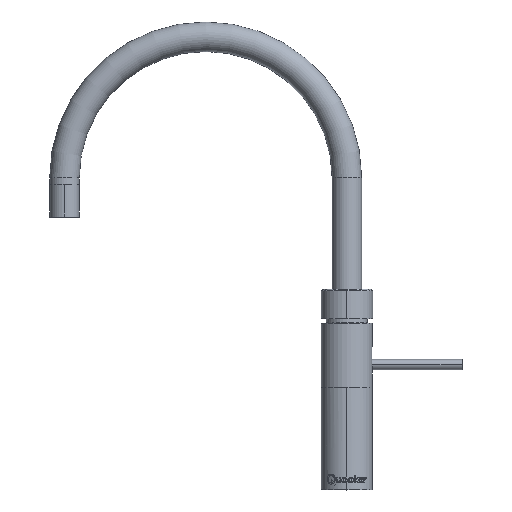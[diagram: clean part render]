
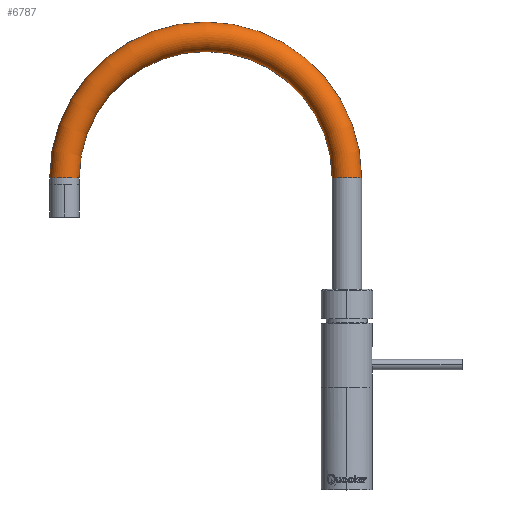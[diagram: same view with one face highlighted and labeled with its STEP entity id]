
A CAD part, top view. The second image highlights one B-rep face of the part: STEP entity #6787.
In plain terms, the highlighted toroidal (fillet/blend) face has major radius 110 mm and minor radius 11.5 mm.
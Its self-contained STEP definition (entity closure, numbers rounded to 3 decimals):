
#73 = CARTESIAN_POINT ( 'NONE',  ( -110., 243.05, 0. ) ) ;
#343 = DIRECTION ( 'NONE',  ( 0., 0., 1. ) ) ;
#371 = VERTEX_POINT ( 'NONE', #386 ) ;
#386 = CARTESIAN_POINT ( 'NONE',  ( -208.5, 243.05, 0. ) ) ;
#457 = CARTESIAN_POINT ( 'NONE',  ( -11.5, 243.05, 0. ) ) ;
#753 = ORIENTED_EDGE ( 'NONE', *, *, #4794, .T. ) ;
#808 = CARTESIAN_POINT ( 'NONE',  ( -110., 243.05, 0. ) ) ;
#1018 = EDGE_CURVE ( 'NONE', #5871, #371, #2705, .T. ) ;
#1281 = VERTEX_POINT ( 'NONE', #3213 ) ;
#1637 = ORIENTED_EDGE ( 'NONE', *, *, #1018, .F. ) ;
#1935 = DIRECTION ( 'NONE',  ( -1., 0., 0. ) ) ;
#1977 = AXIS2_PLACEMENT_3D ( 'NONE', #6640, #2765, #7085 ) ;
#2005 = DIRECTION ( 'NONE',  ( 0., 1., 0. ) ) ;
#2106 = TOROIDAL_SURFACE ( 'NONE', #2238, 110., 11.5 ) ;
#2186 = CARTESIAN_POINT ( 'NONE',  ( -110., 243.05, 0. ) ) ;
#2238 = AXIS2_PLACEMENT_3D ( 'NONE', #2186, #3331, #4376 ) ;
#2414 = CARTESIAN_POINT ( 'NONE',  ( 11.5, 243.05, 0. ) ) ;
#2458 = ORIENTED_EDGE ( 'NONE', *, *, #5248, .T. ) ;
#2705 = CIRCLE ( 'NONE', #6092, 98.5 ) ;
#2712 = AXIS2_PLACEMENT_3D ( 'NONE', #73, #6680, #2821 ) ;
#2765 = DIRECTION ( 'NONE',  ( 0., -1., 0. ) ) ;
#2821 = DIRECTION ( 'NONE',  ( 1., 0., 0. ) ) ;
#3213 = CARTESIAN_POINT ( 'NONE',  ( -231.5, 243.05, 0. ) ) ;
#3331 = DIRECTION ( 'NONE',  ( 0., 0., 1. ) ) ;
#3395 = EDGE_CURVE ( 'NONE', #371, #1281, #3705, .T. ) ;
#3632 = ORIENTED_EDGE ( 'NONE', *, *, #3395, .F. ) ;
#3705 = CIRCLE ( 'NONE', #1977, 11.5 ) ;
#4213 = CARTESIAN_POINT ( 'NONE',  ( 0., 243.05, 0. ) ) ;
#4376 = DIRECTION ( 'NONE',  ( 1., 0., 0. ) ) ;
#4513 = FACE_OUTER_BOUND ( 'NONE', #6040, .T. ) ;
#4710 = VERTEX_POINT ( 'NONE', #2414 ) ;
#4712 = CIRCLE ( 'NONE', #2712, 121.5 ) ;
#4794 = EDGE_CURVE ( 'NONE', #5871, #4710, #5924, .T. ) ;
#5248 = EDGE_CURVE ( 'NONE', #4710, #1281, #4712, .T. ) ;
#5285 = DIRECTION ( 'NONE',  ( 1., 0., 0. ) ) ;
#5708 = AXIS2_PLACEMENT_3D ( 'NONE', #4213, #2005, #1935 ) ;
#5871 = VERTEX_POINT ( 'NONE', #457 ) ;
#5924 = CIRCLE ( 'NONE', #5708, 11.5 ) ;
#6040 = EDGE_LOOP ( 'NONE', ( #753, #2458, #3632, #1637 ) ) ;
#6092 = AXIS2_PLACEMENT_3D ( 'NONE', #808, #343, #5285 ) ;
#6640 = CARTESIAN_POINT ( 'NONE',  ( -220., 243.05, 0. ) ) ;
#6680 = DIRECTION ( 'NONE',  ( 0., 0., 1. ) ) ;
#6787 = ADVANCED_FACE ( 'NONE', ( #4513 ), #2106, .T. ) ;
#7085 = DIRECTION ( 'NONE',  ( 1., 0., 0. ) ) ;
